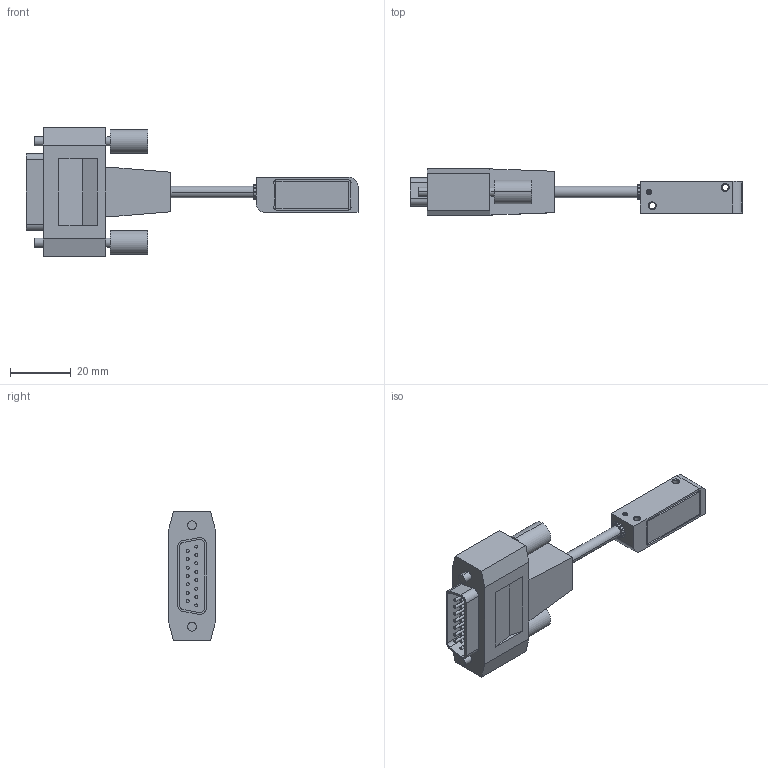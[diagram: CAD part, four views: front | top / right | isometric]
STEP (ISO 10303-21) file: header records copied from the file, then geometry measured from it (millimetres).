
FILE_DESCRIPTION((''),'2;1');
FILE_NAME('1235156-01-D01_ASM','2017-12-05T',('de8356'),(''),'PRO/ENGINEER BY PARAMETRIC TECHNOLOGY CORPORATION, 2014000','PRO/ENGINEER BY PARAMETRIC TECHNOLOGY CORPORATION, 2014000','');
FILE_SCHEMA(('CONFIG_CONTROL_DESIGN'));
Length unit declared in the file: millimetre
Products named in the file (11): 1080516-10-D01; 754073-04-K01; 1109906-01-K01; 369728-77-A01; 203978-33-B01; 203978-25-B01; 369728-77-A01_ASM; 200540-2B-K01; 1095874-10-D01_ASM; 266317-02Z1; 1235156-01-D01_ASM
Assembly tree (11 placements, depth 4):
  1235156-01-D01_ASM
    1095874-10-D01_ASM
      1080516-10-D01
      754073-04-K01
      1109906-01-K01
      369728-77-A01_ASM
        369728-77-A01
        203978-33-B01
        203978-25-B01
      200540-2B-K01
    200540-2B-K01
    266317-02Z1
Bounding box: 109.2 x 15.2 x 42.7 mm (x, y, z)
Volume: 22340.3 mm3; surface area: 10361.3 mm2
Topology: 9 solids, 9 shells, 370 faces, 869 edges, 555 vertices
Faces by surface type: plane 225, cylinder 110, cone 31, bspline 4
Entity records: 11241 total; most frequent: CARTESIAN_POINT 1915, DIRECTION 1816, ORIENTED_EDGE 1630, EDGE_CURVE 815, AXIS2_PLACEMENT_3D 633, VECTOR 550, LINE 550, VERTEX_POINT 528
